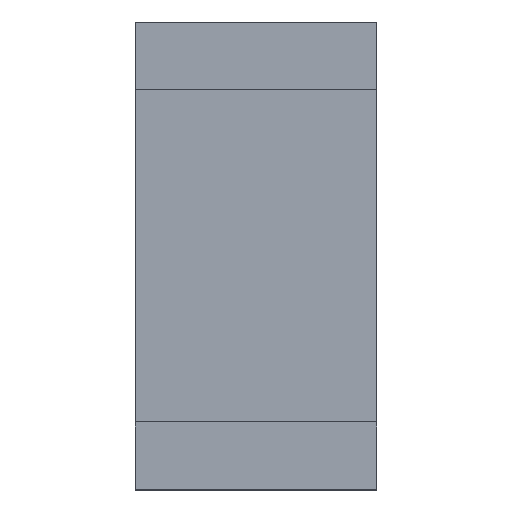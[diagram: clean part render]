
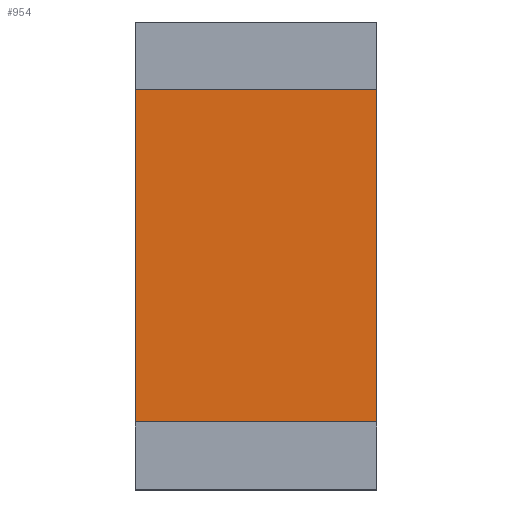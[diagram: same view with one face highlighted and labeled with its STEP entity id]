
A CAD part, top view. The second image highlights one B-rep face of the part: STEP entity #954.
In plain terms, the highlighted planar face has unit normal (0, 0, 1).
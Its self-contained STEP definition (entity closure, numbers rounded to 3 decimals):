
#825 = VERTEX_POINT('',#826);
#826 = CARTESIAN_POINT('',(-0.8,1.1,0.5));
#832 = EDGE_CURVE('',#825,#833,#835,.T.);
#833 = VERTEX_POINT('',#834);
#834 = CARTESIAN_POINT('',(-0.8,-1.1,0.5));
#835 = LINE('',#836,#837);
#836 = CARTESIAN_POINT('',(-0.8,1.1,0.5));
#837 = VECTOR('',#838,1.);
#838 = DIRECTION('',(0.,-1.,0.));
#863 = EDGE_CURVE('',#833,#864,#866,.T.);
#864 = VERTEX_POINT('',#865);
#865 = CARTESIAN_POINT('',(0.8,-1.1,0.5));
#866 = LINE('',#867,#868);
#867 = CARTESIAN_POINT('',(-0.8,-1.1,0.5));
#868 = VECTOR('',#869,1.);
#869 = DIRECTION('',(1.,0.,0.));
#894 = EDGE_CURVE('',#864,#895,#897,.T.);
#895 = VERTEX_POINT('',#896);
#896 = CARTESIAN_POINT('',(0.8,1.1,0.5));
#897 = LINE('',#898,#899);
#898 = CARTESIAN_POINT('',(0.8,-1.1,0.5));
#899 = VECTOR('',#900,1.);
#900 = DIRECTION('',(0.,1.,0.));
#925 = EDGE_CURVE('',#895,#825,#926,.T.);
#926 = LINE('',#927,#928);
#927 = CARTESIAN_POINT('',(0.8,1.1,0.5));
#928 = VECTOR('',#929,1.);
#929 = DIRECTION('',(-1.,0.,0.));
#954 = ADVANCED_FACE('',(#955),#961,.T.);
#955 = FACE_BOUND('',#956,.T.);
#956 = EDGE_LOOP('',(#957,#958,#959,#960));
#957 = ORIENTED_EDGE('',*,*,#832,.T.);
#958 = ORIENTED_EDGE('',*,*,#863,.T.);
#959 = ORIENTED_EDGE('',*,*,#894,.T.);
#960 = ORIENTED_EDGE('',*,*,#925,.T.);
#961 = PLANE('',#962);
#962 = AXIS2_PLACEMENT_3D('',#963,#964,#965);
#963 = CARTESIAN_POINT('',(0.,0.,0.5));
#964 = DIRECTION('',(0.,0.,1.));
#965 = DIRECTION('',(1.,0.,0.));
